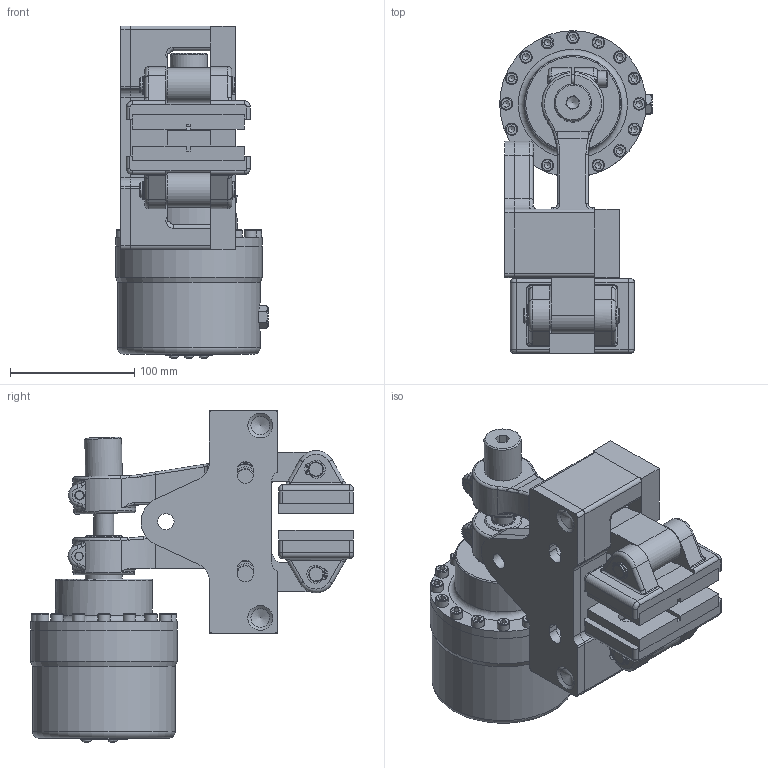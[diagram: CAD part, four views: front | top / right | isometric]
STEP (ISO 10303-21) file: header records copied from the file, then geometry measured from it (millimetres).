
FILE_DESCRIPTION(/* description */ ('','CAx-IF Rec.Pracs.---Representation and Presentation of Product Manufacturing Information (PMI)---4.0---2014-10-13'),/* implementation_level */ '2;1');
FILE_NAME(/* name */ 'X:\INVENTOR\DISEGNI\19_Pinze\STEP x Sito\OLEO-NEGATIVE\19_46_034_03 POH-N034_12,7.stp',/* time_stamp */ '2018-02-23T16:30:38+01:00',/* author */ ('stefano'),/* organization */ (''),/* preprocessor_version */ 'ST-DEVELOPER v17',/* originating_system */ 'Autodesk Inventor 2018',/* authorisation */ '');
FILE_SCHEMA (('AP242_MANAGED_MODEL_BASED_3D_ENGINEERING_MIM_LF { 1 0 10303 442 1 1 4 }'));
Length unit declared in the file: millimetre
Products named in the file (1): 19_46_034_03 POH-N034_12,7_Substitute_2
Bounding box: 123 x 260 x 267.45 mm (x, y, z)
Volume: 2226092.2 mm3; surface area: 346390 mm2
Topology: 1 solids, 1 shells, 1157 faces, 3216 edges, 2120 vertices
Faces by surface type: plane 591, cylinder 320, cone 89, torus 83, bspline 73, sphere 1
Full cylindrical faces by diameter (mm): 1.7 x18, 4 x2, 5 x2, 6 x4, 6.5 x6, 6.647 x1, 7.6 x3, 8 x3, 8.5 x2, 9.5 x2, 10 x19, 10.5 x1, 11.445 x2, 11.5 x4, 12 x17, 13 x8, 13.4 x6, 13.5 x2, 14 x12, 15 x1, 16 x8, 16.5 x4, 19 x1, 19.5 x12, 21 x3, 22 x1, 22.6 x1, 24 x1, 25 x1, 30 x2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
Entity records: 41280 total; most frequent: CARTESIAN_POINT 10233, DIRECTION 6340, ORIENTED_EDGE 6334, EDGE_CURVE 3167, AXIS2_PLACEMENT_3D 2429, VERTEX_POINT 2120, LINE 1482, VECTOR 1482
